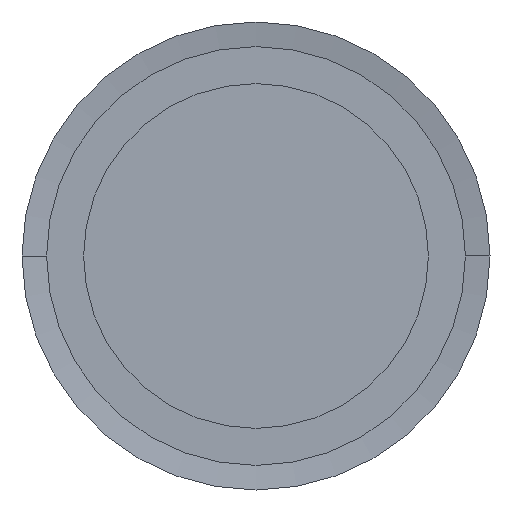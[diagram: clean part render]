
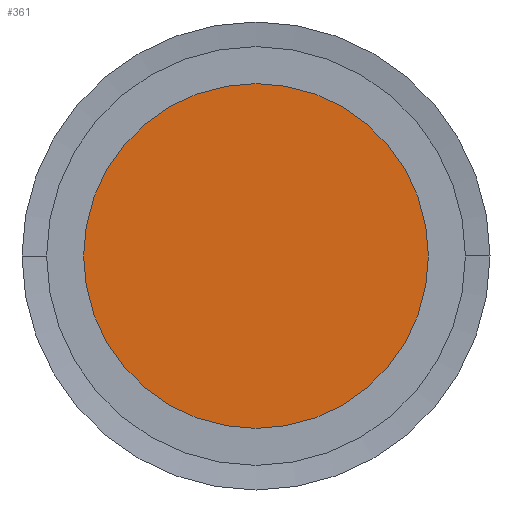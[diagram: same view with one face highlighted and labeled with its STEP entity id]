
A CAD part, left-side view. The second image highlights one B-rep face of the part: STEP entity #361.
In plain terms, the highlighted planar face has unit normal (-1, 0, 0).
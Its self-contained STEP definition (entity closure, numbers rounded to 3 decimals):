
#361 = ADVANCED_FACE( '', ( #938 ), #939, .T. );
#938 = FACE_OUTER_BOUND( '', #1515, .T. );
#939 = PLANE( '', #1516 );
#1515 = EDGE_LOOP( '', ( #3873, #3874 ) );
#1516 = AXIS2_PLACEMENT_3D( '', #3875, #3876, #3877 );
#3873 = ORIENTED_EDGE( '', *, *, #3881, .T. );
#3874 = ORIENTED_EDGE( '', *, *, #4627, .T. );
#3875 = CARTESIAN_POINT( '', ( 0., 7., 0. ) );
#3876 = DIRECTION( '', ( -1., 0., 0. ) );
#3877 = DIRECTION( '', ( 0., 1., 0. ) );
#3881 = EDGE_CURVE( '', #4629, #4633, #4635, .T. );
#4627 = EDGE_CURVE( '', #4633, #4629, #5845, .T. );
#4629 = VERTEX_POINT( '', #5847 );
#4633 = VERTEX_POINT( '', #5852 );
#4635 = CIRCLE( '', #5855, 14. );
#5845 = CIRCLE( '', #7389, 14. );
#5847 = CARTESIAN_POINT( '', ( 0., 14., 0. ) );
#5852 = CARTESIAN_POINT( '', ( 0., -14., 0. ) );
#5855 = AXIS2_PLACEMENT_3D( '', #7395, #7396, #7397 );
#7389 = AXIS2_PLACEMENT_3D( '', #8985, #8986, #8987 );
#7395 = CARTESIAN_POINT( '', ( 0., 0., 0. ) );
#7396 = DIRECTION( '', ( -1., 0., 0. ) );
#7397 = DIRECTION( '', ( 0., 1., 0. ) );
#8985 = CARTESIAN_POINT( '', ( 0., 0., 0. ) );
#8986 = DIRECTION( '', ( -1., 0., 0. ) );
#8987 = DIRECTION( '', ( 0., 1., 0. ) );
